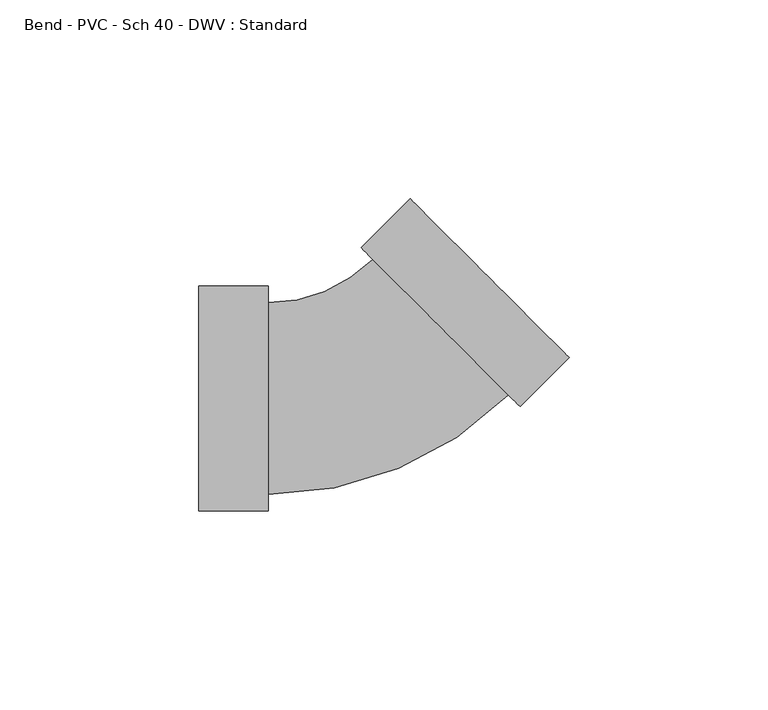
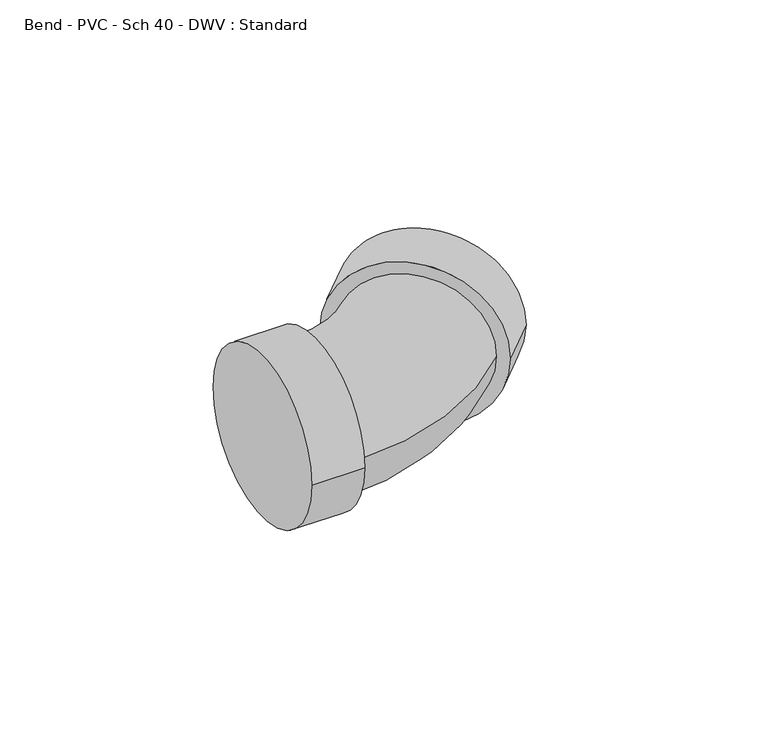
"""IFC4 building model written with IfcOpenShell, lengths in millimetres: pipe fitting geometry, Bend - PVC - Sch 40 - DWV : Standard."""

from ifc_helpers import new_model, si_unit, point, frame, origin, place, context, project, spatial, circle_curve, ellipse_curve, trimmed, source, transform, mapped, element, save
from ifc_brep_helpers import plane_surface, cylinder_surface, revolved_surface, advanced_brep


def bend_pvc_sch_40_dwv_standard_25ee5ec6(model_context):
    return source(origin(), model_context, "Body", "AdvancedBrep", [
        advanced_brep(
        [(-42.8498, -28.2829, 0.0), (-42.8498, 28.2829, 0.0), (-25.4, -28.2829, 0.0), (-25.4, 28.2829, 0.0), (-25.4, -24.13, 0.0), (-25.4, 24.13, 0.0), (0.8970021, 35.0230251, 0.0), (35.0229726, 0.8990491, 0.0), (37.9596022, -2.0374088, 0.0), (-2.0396275, 37.959483, 0.0), (50.2981135, 10.3018237, 0.0), (10.2988839, 50.2987155, 0.0)],
        [
            (0, 1, circle_curve(frame((-42.8498, 0.0, 0.0), z_axis=(-1.0, 0.0, 0.0), x_axis=(0.0, 1.0, 0.0)), 28.2829)),
            (1, 0, circle_curve(frame((-42.8498, 0.0, 0.0), z_axis=(-1.0, 0.0, 0.0), x_axis=(0.0, 1.0, 0.0)), 28.2829)),
            (2, 3, circle_curve(frame((-25.4, 0.0, 0.0), z_axis=(1.0, 0.0, 0.0), x_axis=(0.0, 1.0, 0.0)), 28.2829)),
            (3, 2, circle_curve(frame((-25.4, 0.0, 0.0), z_axis=(1.0, 0.0, 0.0), x_axis=(0.0, 1.0, 0.0)), 28.2829)),
            (4, 5, circle_curve(frame((-25.4, 0.0, 0.0), z_axis=(-1.0, 0.0, 0.0), x_axis=(0.0, 1.0, 0.0)), 24.13)),
            (5, 4, circle_curve(frame((-25.4, 0.0, 0.0), z_axis=(-1.0, 0.0, 0.0), x_axis=(0.0, 1.0, 0.0)), 24.13)),
            (0, 2),
            (3, 1),
            (6, 5, circle_curve(frame((-25.4, 61.3184903, 0.0), z_axis=(0.0, 0.0, -1.0), x_axis=(0.0, -1.0, 0.0)), 37.1884903)),
            (4, 7, circle_curve(frame((-25.4, 61.3184903, 0.0), z_axis=(0.0, 0.0, 1.0), x_axis=(0.0, -1.0, 0.0)), 85.4484903)),
            (7, 6, circle_curve(frame((17.9599874, 17.9610371, 0.0), z_axis=(-0.7070861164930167, -0.7071274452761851, 0.0), x_axis=(-0.7071274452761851, 0.7070861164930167, 0.0)), 24.13)),
            (6, 7, circle_curve(frame((17.9599874, 17.9610371, 0.0), z_axis=(-0.7070861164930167, -0.7071274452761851, 0.0), x_axis=(-0.7071274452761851, 0.7070861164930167, 0.0)), 24.13)),
            (8, 9, circle_curve(frame((17.9599874, 17.9610371, 0.0), z_axis=(-0.7070861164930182, -0.7071274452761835, 0.0), x_axis=(-0.7071274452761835, 0.7070861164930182, 0.0)), 28.2829)),
            (9, 8, circle_curve(frame((17.9599874, 17.9610371, 0.0), z_axis=(-0.7070861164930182, -0.7071274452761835, 0.0), x_axis=(-0.7071274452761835, 0.7070861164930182, 0.0)), 28.2829)),
            (10, 11, circle_curve(frame((30.2984987, 30.3002696, 0.0), z_axis=(0.7070861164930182, 0.7071274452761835, 0.0), x_axis=(-0.7071274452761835, 0.7070861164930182, 0.0)), 28.2829)),
            (11, 10, circle_curve(frame((30.2984987, 30.3002696, 0.0), z_axis=(0.7070861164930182, 0.7071274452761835, 0.0), x_axis=(-0.7071274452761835, 0.7070861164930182, 0.0)), 28.2829)),
            (8, 10),
            (11, 9),
        ],
        [
            plane_surface(frame((-42.8498, 0.0, 0.0), z_axis=(-1.0, 0.0, 0.0), x_axis=(0.0, 0.0, 1.0))),
            plane_surface(frame((-25.4, 0.0, 0.0), z_axis=(1.0, 0.0, 0.0), x_axis=(0.0, 0.0, 1.0))),
            cylinder_surface(frame((-42.8498, 0.0, 0.0), z_axis=(-1.0, 0.0, 0.0), x_axis=(0.0, 1.0, 0.0)), 28.2829),
            revolved_surface(trimmed(ellipse_curve(frame((-25.4, 0.0, 0.0), z_axis=(-1.0, 0.0, 0.0), x_axis=(0.0, 1.0, 0.0)), 24.13, 24.13), [point((-25.4, -24.13, 0.0))], [point((-25.4, 24.13, 0.0))], True, "CARTESIAN"), (-25.4, 61.3184903, 0.0), (0.0, 0.0, 1.0)),
            revolved_surface(trimmed(ellipse_curve(frame((-25.4, 0.0, 0.0), z_axis=(-1.0, 0.0, 0.0), x_axis=(0.0, 1.0, 0.0)), 24.13, 24.13), [point((-25.4, 24.13, 0.0))], [point((-25.4, -24.13, 0.0))], True, "CARTESIAN"), (-25.4, 61.3184903, 0.0), (0.0, 0.0, 1.0)),
            plane_surface(frame((17.9599874, 17.9610371, 0.0), z_axis=(-0.7070861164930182, -0.7071274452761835, 0.0), x_axis=(0.0, 0.0, 1.0))),
            plane_surface(frame((30.2984987, 30.3002696, 0.0), z_axis=(0.7070861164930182, 0.7071274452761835, 0.0), x_axis=(0.0, 0.0, 1.0))),
            cylinder_surface(frame((17.9599874, 17.9610371, 0.0), z_axis=(-0.7070861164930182, -0.7071274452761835, 0.0), x_axis=(-0.7071274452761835, 0.7070861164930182, 0.0)), 28.2829),
        ],
        [
            (0, [[1, 2]]),
            (1, [[3, 4], [5, 6]]),
            (2, [[-1, 7, -4, 8]]),
            (2, [[-2, -8, -3, -7]]),
            (3, [[9, -5, 10, 11]]),
            (4, [[-9, 12, -10, -6]]),
            (5, [[13, 14], [-11, -12]]),
            (6, [[15, 16]]),
            (7, [[-13, 17, -16, 18]]),
            (7, [[-14, -18, -15, -17]]),
        ],
    ),
    ])


if __name__ == "__main__":
    model = new_model("IFC4")
    model_context = context("Model", 3, world=origin())
    ifc_project = project(units=[si_unit("LENGTHUNIT", "METRE", prefix="MILLI")], contexts=[model_context])
    site = spatial("IfcSite", under=ifc_project)
    building = spatial("IfcBuilding", under=site)
    placement = place(None, origin())
    bend_pvc_sch_40_dwv_standard_shape = bend_pvc_sch_40_dwv_standard_25ee5ec6(model_context)
    element("IfcPipeFitting", 1, ObjectType="Bend - PVC - Sch 40 - DWV : Standard", at=placement, inside=building, context=model_context, shape_type="MappedRepresentation", body=[
        mapped(bend_pvc_sch_40_dwv_standard_shape, transform((0.0, 0.0, 0.0), x_axis=(1.0, 0.0, 0.0), y_axis=(0.0, 1.0, 0.0), z_axis=(0.0, 0.0, 1.0))),
    ])
    save(model, "model.ifc")
